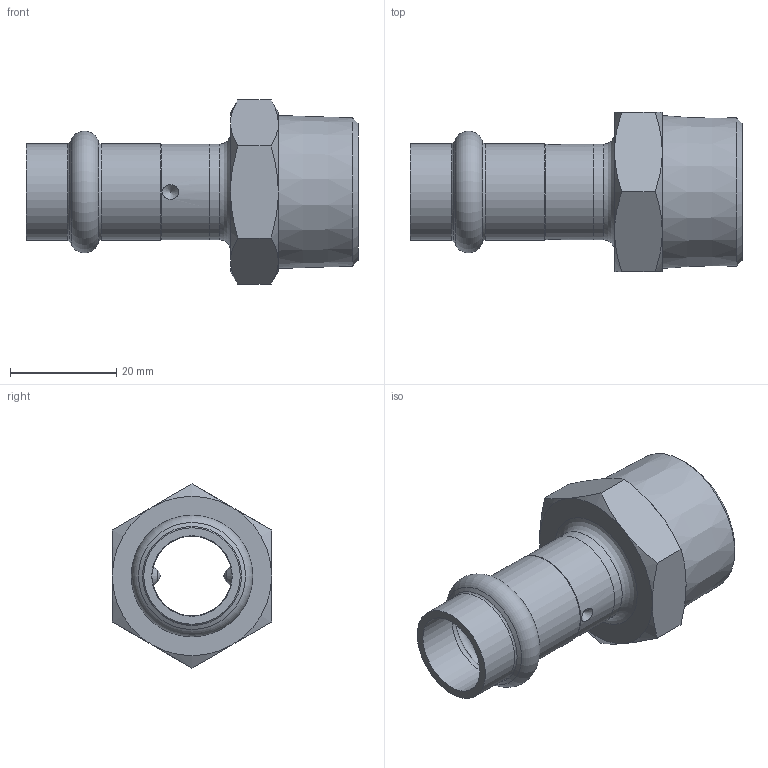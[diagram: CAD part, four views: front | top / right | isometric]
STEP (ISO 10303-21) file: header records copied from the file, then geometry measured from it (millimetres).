
FILE_DESCRIPTION((''),'2;1');
FILE_NAME('G:\Nirosan-Schmiedefeld\Technics\CAD\Bauteile VA\015\69243G1534(1).stp','2011-10-26T11:48:28',('herberg'),(''),'Autodesk Inventor 2009','Autodesk Inventor 2009','');
FILE_SCHEMA(('AUTOMOTIVE_DESIGN { 1 0 10303 214 1 1 1 1 }'));
Length unit declared in the file: millimetre
Products named in the file (3): 69243G1534(1); HM_692431815(0); AG1834(2)
Assembly tree (2 placements, depth 2):
  69243G1534(1)
    HM_692431815(0)
    AG1834(2)
Bounding box: 62.5 x 30 x 34.64 mm (x, y, z)
Volume: 13328.9 mm3; surface area: 9125.4 mm2
Topology: 2 solids, 2 shells, 53 faces, 120 edges, 72 vertices
Faces by surface type: cone 22, plane 12, bspline 8, cylinder 7, sphere 2, torus 2
Full cylindrical faces by diameter (mm): 15 x1, 15.15 x2, 18 x2, 18.15 x2
Entity records: 1754 total; most frequent: CARTESIAN_POINT 756, DIRECTION 192, ORIENTED_EDGE 162, AXIS2_PLACEMENT_3D 93, EDGE_LOOP 86, EDGE_CURVE 81, VERTEX_POINT 61, FACE_OUTER_BOUND 53
